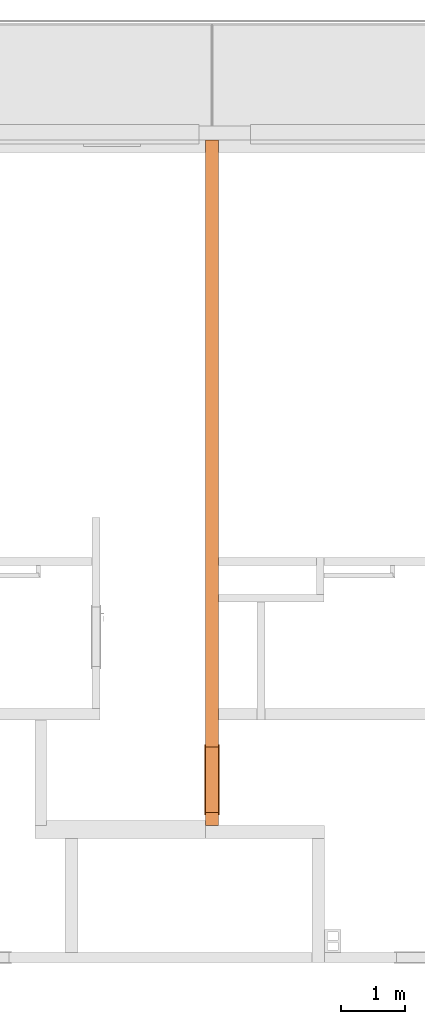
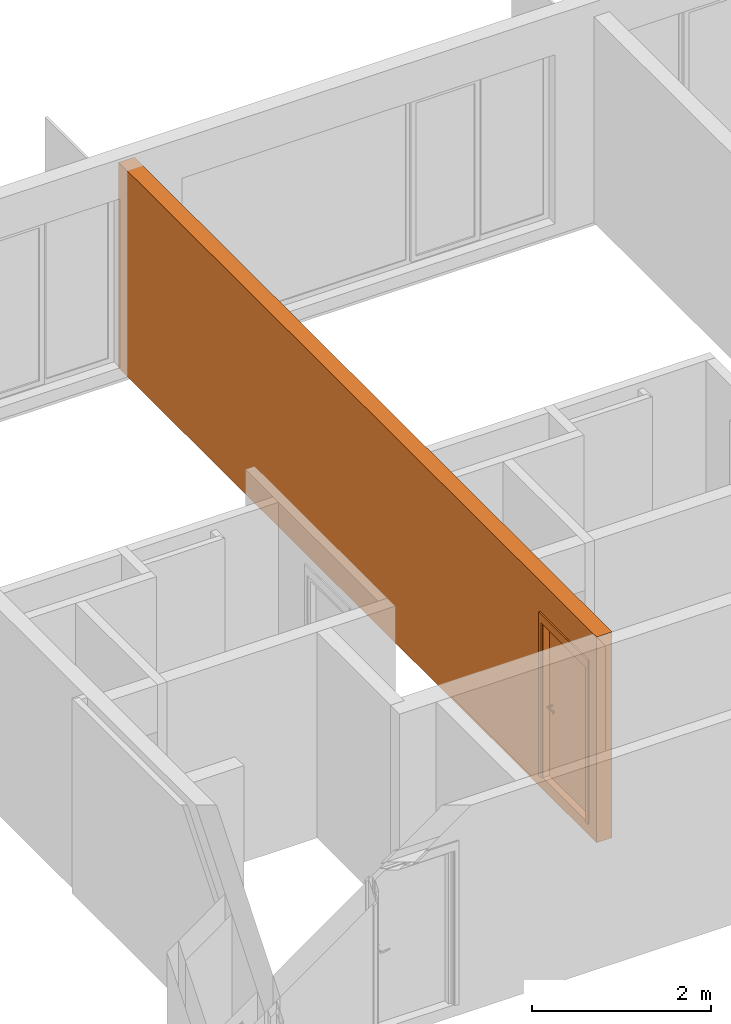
# One storey, part 25 of 64: 2 proxies, 1 opening.
"""IFC2X3 building model written with IfcOpenShell, lengths in millimetres."""

from ifc_helpers import new_model, entity, si_unit, converted_unit, derived_unit, money_unit, direction, frame, origin_with_axes, origin_2d_with_axis, place, context, subcontext, project, spatial, rectangle, extrude, open_shell, faceted_brep, surface_model, source, transform, mapped, material, type_object, element, fill, save


model = new_model("IFC2X3")

# Units and contexts
model_context = context("Model", 3, precision=0.01, world=origin_with_axes(), true_north=direction((0.34421633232, 0.938890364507)))
body_context = subcontext(model_context, "Body", "Model", "MODEL_VIEW")
ifc_project = project(units=[si_unit("LENGTHUNIT", "METRE", prefix="MILLI"), si_unit("AREAUNIT", "SQUARE_METRE"), si_unit("VOLUMEUNIT", "CUBIC_METRE"), converted_unit("PLANEANGLEUNIT", "DEGREE", entity("IfcPlaneAngleMeasure", 0.0174532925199), si_unit("PLANEANGLEUNIT", "RADIAN"), dimensions=[0, 0, 0, 0, 0, 0, 0]), si_unit("SOLIDANGLEUNIT", "STERADIAN"), money_unit("USD"), converted_unit("TIMEUNIT", "Year", entity("IfcTimeMeasure", 31556926.0), si_unit("TIMEUNIT", "SECOND"), dimensions=[0, 0, 1, 0, 0, 0, 0]), si_unit("MASSUNIT", "GRAM", prefix="KILO"), si_unit("THERMODYNAMICTEMPERATUREUNIT", "DEGREE_CELSIUS"), si_unit("LUMINOUSINTENSITYUNIT", "LUMEN"), si_unit("ENERGYUNIT", "JOULE", prefix="MEGA"), derived_unit("THERMALCONDUCTANCEUNIT", [(si_unit("POWERUNIT", "WATT"), 1), (si_unit("LENGTHUNIT", "METRE"), -1), (si_unit("THERMODYNAMICTEMPERATUREUNIT", "KELVIN"), -1)]), derived_unit("SPECIFICHEATCAPACITYUNIT", [(si_unit("ENERGYUNIT", "JOULE"), 1), (si_unit("MASSUNIT", "GRAM", prefix="KILO"), -1), (si_unit("THERMODYNAMICTEMPERATUREUNIT", "KELVIN"), -1)]), derived_unit("MASSDENSITYUNIT", [(si_unit("MASSUNIT", "GRAM", prefix="KILO"), 1), (si_unit("VOLUMEUNIT", "CUBIC_METRE"), -1)])], contexts=[model_context])

# Site, building, storey
site_placement = place(None, origin_with_axes())
site = spatial("IfcSite", under=ifc_project, at=site_placement, Name="USTRONIE MORSKIE", CompositionType="ELEMENT")
building_placement = place(site_placement, origin_with_axes())
building = spatial("IfcBuilding", under=site, at=building_placement, Name="Budynek", CompositionType="ELEMENT")
storey_placement = place(building_placement, frame((0.0, 0.0, 7000.0), z_axis=(0.0, 0.0, 1.0), x_axis=(1.0, 0.0, 0.0)))
storey = spatial("IfcBuildingStorey", under=building, at=storey_placement, Name="PIĘTRO 2", CompositionType="ELEMENT", Elevation=7000.0)

# Proxies, opening
ifc_material = material(Name="Beton konstrukcyjny B25")
building_element_proxy_type_1 = type_object("IfcBuildingElementProxyType", Name="Beton konstrukcyjny B25 200", PredefinedType="NOTDEFINED")
proxy_1_placement = place(storey_placement, frame((384817.920919, 749451.199036, -160.0), z_axis=(0.0, 0.0, 1.0), x_axis=(0.0, -1.0, 0.0)))
proxy_1 = element("IfcBuildingElementProxy", 1, at=proxy_1_placement, inside=storey, type_object=building_element_proxy_type_1, material=ifc_material, Name="SW-01", context=body_context, shape_type="Brep", body=[
    faceted_brep([(10550.0, 100.0, 0.0), (10550.0, -100.0, 0.0), (-100.0, -100.0, 0.0), (-100.0, 100.0, 0.0), (10550.0, 100.0, 2800.0), (10550.0, -100.0, 2800.0), (-100.0, -100.0, 2800.0), (-100.0, 100.0, 2800.0)], [[[0, 1, 2, 3]], [[1, 0, 4, 5]], [[1, 5, 6, 2]], [[7, 3, 2, 6]], [[4, 0, 3, 7]], [[5, 4, 7, 6]]]),
])
opening_placement = place(proxy_1_placement, frame((9840.0, 0.0, 160.0), z_axis=(0.0, 0.0, 1.0), x_axis=(1.0, 0.0, 0.0)))
opening = element("IfcOpeningElement", 2, at=opening_placement, cuts=proxy_1, Name="Dw.1", context=body_context, shape_type="SweptSolid", body=[
    extrude(rectangle(XDim=1020.0, YDim=2120.0, at=origin_2d_with_axis()), frame((0.0, -200.0, 1060.0), z_axis=(0.0, -1.0, 0.0), x_axis=(1.0, 0.0, 0.0)), (0.0, 0.0, -1.0), 600.0),
    extrude(rectangle(XDim=1094.0, YDim=2227.0, at=origin_2d_with_axis()), frame((0.0, -100.0, 1113.5), z_axis=(0.0, -1.0, 0.0), x_axis=(1.0, 0.0, 0.0)), (0.0, 0.0, 1.0), 200.0),
    extrude(rectangle(XDim=1094.0, YDim=2227.0, at=origin_2d_with_axis()), frame((0.0, 100.0, 1113.5), z_axis=(0.0, 1.0, 0.0), x_axis=(1.0, 0.0, 0.0)), (0.0, 0.0, 1.0), 200.0),
])
building_element_proxy_type_2 = type_object("IfcBuildingElementProxyType", Name="Drzwi 23", PredefinedType="NOTDEFINED")
shared_shape = source(origin_with_axes(), body_context, "Body", "SurfaceModel", [
    faceted_brep([(510.0, 0.0, 0.0), (485.0, 0.0, 0.0), (485.0, 85.0, 0.0), (510.0, 85.0, 0.0), (510.0, 0.0, 2120.0), (485.0, 0.0, 2095.0), (485.0, 85.0, 2095.0), (510.0, 85.0, 2120.0)], [[[0, 1, 2, 3]], [[0, 4, 5, 1]], [[1, 5, 6, 2]], [[3, 2, 6, 7]], [[4, 0, 3, 7]], [[5, 4, 7, 6]]]),
    faceted_brep([(-510.0, 0.0, 2120.0), (-485.0, 0.0, 2095.0), (-485.0, 85.0, 2095.0), (-510.0, 85.0, 2120.0), (-510.0, 0.0, 0.0), (-485.0, 0.0, 0.0), (-485.0, 85.0, 0.0), (-510.0, 85.0, 0.0)], [[[0, 1, 2, 3]], [[0, 4, 5, 1]], [[1, 5, 6, 2]], [[3, 2, 6, 7]], [[4, 0, 3, 7]], [[5, 4, 7, 6]]]),
    faceted_brep([(485.0, 0.0, 2095.0), (-485.0, 0.0, 2095.0), (-485.0, 85.0, 2095.0), (485.0, 85.0, 2095.0), (510.0, 0.0, 2120.0), (-510.0, 0.0, 2120.0), (-510.0, 85.0, 2120.0), (510.0, 85.0, 2120.0)], [[[0, 1, 2, 3]], [[0, 4, 5, 1]], [[1, 5, 6, 2]], [[3, 2, 6, 7]], [[4, 0, 3, 7]], [[5, 4, 7, 6]]]),
    faceted_brep([(547.0, 104.0, 0.0), (547.0, 85.0, 0.0), (497.0, 85.0, 0.0), (497.0, 104.0, 0.0), (547.0, 104.0, 2227.0), (547.0, 85.0, 2227.0), (497.0, 85.0, 2107.0), (497.0, 104.0, 2107.0)], [[[0, 1, 2, 3]], [[4, 5, 1, 0]], [[1, 5, 6, 2]], [[3, 2, 6, 7]], [[0, 3, 7, 4]], [[7, 6, 5, 4]]]),
    faceted_brep([(-547.0, 104.0, 2227.0), (-547.0, 85.0, 2227.0), (-497.0, 85.0, 2107.0), (-497.0, 104.0, 2107.0), (-547.0, 104.0, 0.0), (-547.0, 85.0, 0.0), (-497.0, 85.0, 0.0), (-497.0, 104.0, 0.0)], [[[0, 1, 2, 3]], [[4, 5, 1, 0]], [[1, 5, 6, 2]], [[3, 2, 6, 7]], [[0, 3, 7, 4]], [[7, 6, 5, 4]]]),
    faceted_brep([(547.0, 104.0, 2227.0), (547.0, 85.0, 2227.0), (497.0, 85.0, 2107.0), (497.0, 104.0, 2107.0), (-547.0, 104.0, 2227.0), (-547.0, 85.0, 2227.0), (-497.0, 85.0, 2107.0), (-497.0, 104.0, 2107.0)], [[[0, 1, 2, 3]], [[4, 5, 1, 0]], [[1, 5, 6, 2]], [[3, 2, 6, 7]], [[0, 3, 7, 4]], [[7, 6, 5, 4]]]),
    faceted_brep([(547.0, -134.0, 0.0), (497.0, -134.0, 0.0), (497.0, -115.0, 0.0), (547.0, -115.0, 0.0), (547.0, -134.0, 2227.0), (497.0, -134.0, 2107.0), (497.0, -115.0, 2107.0), (547.0, -115.0, 2227.0)], [[[0, 1, 2, 3]], [[0, 4, 5, 1]], [[1, 5, 6, 2]], [[3, 2, 6, 7]], [[4, 0, 3, 7]], [[5, 4, 7, 6]]]),
    faceted_brep([(-547.0, -134.0, 2227.0), (-497.0, -134.0, 2107.0), (-497.0, -115.0, 2107.0), (-547.0, -115.0, 2227.0), (-547.0, -134.0, 0.0), (-497.0, -134.0, 0.0), (-497.0, -115.0, 0.0), (-547.0, -115.0, 0.0)], [[[0, 1, 2, 3]], [[0, 4, 5, 1]], [[1, 5, 6, 2]], [[3, 2, 6, 7]], [[4, 0, 3, 7]], [[5, 4, 7, 6]]]),
    faceted_brep([(547.0, -134.0, 2227.0), (497.0, -134.0, 2107.0), (497.0, -115.0, 2107.0), (547.0, -115.0, 2227.0), (-547.0, -134.0, 2227.0), (-497.0, -134.0, 2107.0), (-497.0, -115.0, 2107.0), (-547.0, -115.0, 2227.0)], [[[0, 1, 2, 3]], [[0, 4, 5, 1]], [[1, 5, 6, 2]], [[3, 2, 6, 7]], [[4, 0, 3, 7]], [[5, 4, 7, 6]]]),
    faceted_brep([(450.0, -40.0, 0.0), (450.0, -115.0, 0.0), (450.0, -115.0, 2050.0), (450.0, -40.0, 2050.0), (462.0, -40.0, 0.0), (462.0, 0.0, 0.0), (510.0, 0.0, 0.0), (510.0, -115.0, 0.0), (510.0, -115.0, 2050.0), (462.0, -40.0, 2050.0), (510.0, 0.0, 2050.0), (462.0, 0.0, 2050.0)], [[[0, 1, 2, 3]], [[4, 5, 6, 7, 1, 0]], [[1, 7, 8, 2]], [[9, 3, 2, 8, 10, 11]], [[9, 4, 0, 3]], [[11, 5, 4, 9]], [[11, 10, 6, 5]], [[6, 10, 8, 7]]]),
    faceted_brep([(-462.0, -40.0, 2050.0), (-462.0, 0.0, 2050.0), (-510.0, 0.0, 2050.0), (-510.0, -115.0, 2050.0), (-450.0, -115.0, 2050.0), (-450.0, -40.0, 2050.0), (-462.0, -40.0, 0.0), (-462.0, 0.0, 0.0), (-510.0, 0.0, 0.0), (-510.0, -115.0, 0.0), (-450.0, -115.0, 0.0), (-450.0, -40.0, 0.0)], [[[0, 1, 2, 3, 4, 5]], [[0, 6, 7, 1]], [[7, 8, 2, 1]], [[2, 8, 9, 3]], [[3, 9, 10, 4]], [[5, 4, 10, 11]], [[5, 11, 6, 0]], [[6, 11, 10, 9, 8, 7]]]),
    faceted_brep([(462.0, 0.0, 2062.0), (-462.0, 0.0, 2062.0), (-462.0, 0.0, 2050.0), (-510.0, 0.0, 2050.0), (-510.0, 0.0, 2120.0), (510.0, 0.0, 2120.0), (510.0, 0.0, 2050.0), (462.0, 0.0, 2050.0), (462.0, -40.0, 2062.0), (-462.0, -40.0, 2062.0), (-462.0, -40.0, 2050.0), (-450.0, -40.0, 2050.0), (-450.0, -115.0, 2050.0), (-510.0, -115.0, 2050.0), (-510.0, -115.0, 2120.0), (510.0, -115.0, 2120.0), (510.0, -115.0, 2050.0), (462.0, -40.0, 2050.0), (450.0, -115.0, 2050.0), (450.0, -40.0, 2050.0)], [[[0, 1, 2, 3, 4, 5, 6, 7]], [[0, 8, 9, 1]], [[1, 9, 10, 2]], [[10, 11, 12, 13, 3, 2]], [[4, 3, 13, 14]], [[5, 4, 14, 15]], [[6, 5, 15, 16]], [[17, 7, 6, 16, 18, 19]], [[7, 17, 8, 0]], [[10, 9, 8, 17, 19, 11]], [[19, 18, 12, 11]], [[12, 18, 16, 15, 14, 13]]]),
    faceted_brep([(440.5, -40.0, 1060.0), (383.5, -40.0, 1060.0), (383.5, -43.0, 1060.0), (440.5, -43.0, 1060.0), (440.5, -40.0, 870.0), (383.5, -40.0, 870.0), (383.5, -43.0, 870.0), (440.5, -43.0, 870.0)], [[[0, 1, 2, 3]], [[0, 4, 5, 1]], [[1, 5, 6, 2]], [[3, 2, 6, 7]], [[4, 0, 3, 7]], [[5, 4, 7, 6]]]),
    faceted_brep([(412.0, -104.0, 990.0), (417.0, -104.0, 991.339745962), (417.0, -111.0, 991.339745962), (412.0, -111.0, 990.0), (387.0, -104.0, 990.0), (387.0, -104.0, 1010.0), (412.0, -104.0, 1010.0), (417.0, -104.0, 1008.66025404), (420.660254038, -104.0, 1005.0), (422.0, -104.0, 1000.0), (420.660254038, -104.0, 995.0), (420.660254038, -111.0, 995.0), (422.0, -111.0, 1000.0), (420.660254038, -111.0, 1005.0), (417.0, -111.0, 1008.66025404), (412.0, -111.0, 1010.0), (387.0, -111.0, 1010.0), (387.0, -111.0, 990.0)], [[[0, 1, 2, 3]], [[0, 4, 5, 6, 7, 8, 9, 10, 1]], [[1, 10, 11, 2]], [[3, 2, 11, 12, 13, 14, 15, 16, 17]], [[4, 0, 3, 17]], [[5, 4, 17, 16]], [[6, 5, 16, 15]], [[7, 6, 15, 14]], [[8, 7, 14, 13]], [[9, 8, 13, 12]], [[10, 9, 12, 11]]]),
    surface_model("IfcShellBasedSurfaceModel", [(387.0, -104.0, 1010.0), (373.901717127, -104.0, 1009.60730092), (373.596090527, -111.0, 1009.60730092), (387.0, -104.0, 990.0), (373.901717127, -104.0, 990.392699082), (346.890283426, -108.663544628, 1008.82190275), (387.0, -111.0, 1010.0), (387.0, -111.0, 990.0), (347.804837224, -101.716818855, 991.178097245), (347.804837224, -101.716818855, 1008.82190275), (346.890283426, -108.663544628, 991.178097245), (373.596090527, -111.0, 990.392699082), (322.006256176, -97.1678329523, 991.963495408), (322.006256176, -97.1678329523, 1008.03650459), (320.489735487, -104.008415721, 1008.03650459), (320.489735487, -104.008415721, 991.963495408), (296.702316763, -90.3876628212, 992.748893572), (296.702316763, -90.3876628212, 1007.25110643), (294.59537082, -97.0700416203, 1007.25110643), (294.59537082, -97.0700416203, 992.748893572), (288.829442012, -87.5221707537, 993.0), (288.829442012, -87.5221707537, 1007.0), (286.538795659, -94.1376880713, 1007.0), (286.538795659, -94.1376880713, 993.0)], [open_shell([[[0, 1, 2]], [[0, 3, 4, 1]], [[1, 5, 2]], [[0, 2, 6]], [[4, 3, 7]], [[1, 4, 8, 9]], [[1, 9, 5]], [[2, 5, 10, 11]], [[6, 2, 11, 7]], [[4, 7, 11]], [[8, 4, 11]], [[9, 8, 12, 13]], [[9, 14, 5]], [[5, 14, 15, 10]], [[8, 11, 10]], [[12, 8, 10]], [[13, 12, 16, 17]], [[9, 13, 14]], [[14, 18, 19, 15]], [[12, 10, 15]], [[16, 12, 15]], [[17, 16, 20, 21]], [[13, 17, 18]], [[13, 18, 14]], [[18, 22, 23, 19]], [[16, 15, 19]], [[20, 16, 19]], [[21, 20, 23, 22]], [[17, 21, 22]], [[17, 22, 18]], [[20, 19, 23]]])]),
    faceted_brep([(401.607695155, -53.0, 994.0), (400.0, -53.0, 1000.0), (399.0, -43.0, 1000.0), (400.741669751, -43.0, 993.5), (406.0, -53.0, 989.607695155), (412.0, -53.0, 988.0), (418.0, -53.0, 989.607695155), (422.392304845, -53.0, 994.0), (424.0, -53.0, 1000.0), (422.392304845, -53.0, 1006.0), (418.0, -53.0, 1010.39230485), (412.0, -53.0, 1012.0), (406.0, -53.0, 1010.39230485), (401.607695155, -53.0, 1006.0), (400.741669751, -43.0, 1006.5), (405.5, -43.0, 1011.25833025), (412.0, -43.0, 1013.0), (418.5, -43.0, 1011.25833025), (423.258330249, -43.0, 1006.5), (425.0, -43.0, 1000.0), (423.258330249, -43.0, 993.5), (418.5, -43.0, 988.741669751), (412.0, -43.0, 987.0), (405.5, -43.0, 988.741669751)], [[[0, 1, 2, 3]], [[1, 0, 4, 5, 6, 7, 8, 9, 10, 11, 12, 13]], [[1, 13, 14, 2]], [[2, 14, 15, 16, 17, 18, 19, 20, 21, 22, 23, 3]], [[4, 0, 3, 23]], [[5, 4, 23, 22]], [[6, 5, 22, 21]], [[7, 6, 21, 20]], [[8, 7, 20, 19]], [[9, 8, 19, 18]], [[10, 9, 18, 17]], [[11, 10, 17, 16]], [[12, 11, 16, 15]], [[13, 12, 15, 14]]]),
    faceted_brep([(394.679491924, -47.0, 895.0), (392.0, -47.0, 905.0), (390.0, -43.0, 905.0), (392.947441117, -43.0, 894.0), (402.0, -47.0, 887.679491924), (412.0, -47.0, 885.0), (422.0, -47.0, 887.679491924), (429.320508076, -47.0, 895.0), (432.0, -47.0, 905.0), (429.320508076, -47.0, 915.0), (422.0, -47.0, 922.320508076), (412.0, -47.0, 925.0), (402.0, -47.0, 922.320508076), (394.679491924, -47.0, 915.0), (392.947441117, -43.0, 916.0), (401.0, -43.0, 924.052558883), (412.0, -43.0, 927.0), (423.0, -43.0, 924.052558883), (431.052558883, -43.0, 916.0), (434.0, -43.0, 905.0), (431.052558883, -43.0, 894.0), (423.0, -43.0, 885.947441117), (412.0, -43.0, 883.0), (401.0, -43.0, 885.947441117)], [[[0, 1, 2, 3]], [[1, 0, 4, 5, 6, 7, 8, 9, 10, 11, 12, 13]], [[1, 13, 14, 2]], [[2, 14, 15, 16, 17, 18, 19, 20, 21, 22, 23, 3]], [[4, 0, 3, 23]], [[5, 4, 23, 22]], [[6, 5, 22, 21]], [[7, 6, 21, 20]], [[8, 7, 20, 19]], [[9, 8, 19, 18]], [[10, 9, 18, 17]], [[11, 10, 17, 16]], [[12, 11, 16, 15]], [[13, 12, 15, 14]]]),
    faceted_brep([(407.050252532, -49.0, 909.050252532), (405.0, -49.0, 914.0), (404.0, -47.0, 914.0), (406.343145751, -47.0, 908.343145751), (412.0, -49.0, 907.0), (416.949747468, -49.0, 909.050252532), (419.0, -49.0, 914.0), (416.949747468, -49.0, 918.949747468), (412.0, -49.0, 921.0), (407.050252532, -49.0, 918.949747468), (406.343145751, -47.0, 919.656854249), (412.0, -47.0, 922.0), (417.656854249, -47.0, 919.656854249), (420.0, -47.0, 914.0), (417.656854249, -47.0, 908.343145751), (412.0, -47.0, 906.0)], [[[0, 1, 2, 3]], [[1, 0, 4, 5, 6, 7, 8, 9]], [[1, 9, 10, 2]], [[2, 10, 11, 12, 13, 14, 15, 3]], [[4, 0, 3, 15]], [[5, 4, 15, 14]], [[6, 5, 14, 13]], [[7, 6, 13, 12]], [[8, 7, 12, 11]], [[9, 8, 11, 10]]]),
    faceted_brep([(412.0, -53.0, 1010.0), (407.0, -53.0, 1008.66025404), (407.0, -104.0, 1008.66025404), (412.0, -104.0, 1010.0), (417.0, -53.0, 1008.66025404), (420.660254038, -53.0, 1005.0), (422.0, -53.0, 1000.0), (420.660254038, -53.0, 995.0), (417.0, -53.0, 991.339745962), (412.0, -53.0, 990.0), (407.0, -53.0, 991.339745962), (403.339745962, -53.0, 995.0), (402.0, -53.0, 1000.0), (403.339745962, -53.0, 1005.0), (403.339745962, -104.0, 1005.0), (402.0, -104.0, 1000.0), (403.339745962, -104.0, 995.0), (407.0, -104.0, 991.339745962), (412.0, -104.0, 990.0), (417.0, -104.0, 991.339745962), (420.660254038, -104.0, 995.0), (422.0, -104.0, 1000.0), (420.660254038, -104.0, 1005.0), (417.0, -104.0, 1008.66025404)], [[[0, 1, 2, 3]], [[0, 4, 5, 6, 7, 8, 9, 10, 11, 12, 13, 1]], [[1, 13, 14, 2]], [[3, 2, 14, 15, 16, 17, 18, 19, 20, 21, 22, 23]], [[4, 0, 3, 23]], [[5, 4, 23, 22]], [[6, 5, 22, 21]], [[7, 6, 21, 20]], [[8, 7, 20, 19]], [[9, 8, 19, 18]], [[10, 9, 18, 17]], [[11, 10, 17, 16]], [[12, 11, 16, 15]], [[13, 12, 15, 14]]]),
    faceted_brep([(440.5, 0.0, 1060.0), (440.5, 3.0, 1060.0), (383.5, 3.0, 1060.0), (383.5, 0.0, 1060.0), (440.5, 0.0, 870.0), (440.5, 3.0, 870.0), (383.5, 3.0, 870.0), (383.5, 0.0, 870.0)], [[[0, 1, 2, 3]], [[4, 5, 1, 0]], [[1, 5, 6, 2]], [[3, 2, 6, 7]], [[0, 3, 7, 4]], [[7, 6, 5, 4]]]),
    faceted_brep([(412.0, 64.0, 990.0), (412.0, 71.0, 990.0), (417.0, 71.0, 991.339745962), (417.0, 64.0, 991.339745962), (387.0, 64.0, 990.0), (387.0, 71.0, 990.0), (387.0, 71.0, 1010.0), (412.0, 71.0, 1010.0), (417.0, 71.0, 1008.66025404), (420.660254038, 71.0, 1005.0), (422.0, 71.0, 1000.0), (420.660254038, 71.0, 995.0), (420.660254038, 64.0, 995.0), (422.0, 64.0, 1000.0), (420.660254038, 64.0, 1005.0), (417.0, 64.0, 1008.66025404), (412.0, 64.0, 1010.0), (387.0, 64.0, 1010.0)], [[[0, 1, 2, 3]], [[4, 5, 1, 0]], [[1, 5, 6, 7, 8, 9, 10, 11, 2]], [[3, 2, 11, 12]], [[0, 3, 12, 13, 14, 15, 16, 17, 4]], [[17, 6, 5, 4]], [[16, 7, 6, 17]], [[15, 8, 7, 16]], [[14, 9, 8, 15]], [[13, 10, 9, 14]], [[12, 11, 10, 13]]]),
    surface_model("IfcShellBasedSurfaceModel", [(387.0, 64.0, 1010.0), (373.596090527, 71.0, 1009.60730092), (373.901717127, 64.0, 1009.60730092), (387.0, 71.0, 1010.0), (346.890283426, 68.6635446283, 1008.82190275), (373.901717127, 64.0, 990.392699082), (387.0, 64.0, 990.0), (387.0, 71.0, 990.0), (373.596090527, 71.0, 990.392699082), (346.890283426, 68.6635446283, 991.178097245), (347.804837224, 61.716818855, 1008.82190275), (347.804837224, 61.716818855, 991.178097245), (320.489735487, 64.0084157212, 991.963495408), (320.489735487, 64.0084157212, 1008.03650459), (322.006256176, 57.1678329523, 1008.03650459), (322.006256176, 57.1678329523, 991.963495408), (294.59537082, 57.0700416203, 992.748893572), (294.59537082, 57.0700416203, 1007.25110643), (296.702316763, 50.3876628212, 1007.25110643), (296.702316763, 50.3876628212, 992.748893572), (286.538795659, 54.1376880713, 993.0), (286.538795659, 54.1376880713, 1007.0), (288.829442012, 47.5221707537, 1007.0), (288.829442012, 47.5221707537, 993.0)], [open_shell([[[0, 1, 2]], [[0, 3, 1]], [[2, 1, 4]], [[0, 2, 5, 6]], [[3, 7, 8, 1]], [[1, 8, 9, 4]], [[2, 4, 10]], [[2, 10, 11, 5]], [[5, 7, 6]], [[5, 8, 7]], [[11, 9, 8]], [[4, 9, 12, 13]], [[10, 4, 13]], [[10, 14, 15, 11]], [[11, 8, 5]], [[15, 9, 11]], [[15, 12, 9]], [[13, 12, 16, 17]], [[10, 13, 14]], [[14, 18, 19, 15]], [[19, 12, 15]], [[19, 16, 12]], [[17, 16, 20, 21]], [[14, 13, 17]], [[14, 17, 18]], [[18, 22, 23, 19]], [[23, 16, 19]], [[23, 20, 16]], [[22, 21, 20, 23]], [[18, 17, 21]], [[18, 21, 22]]])]),
    faceted_brep([(401.607695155, 13.0, 994.0), (400.741669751, 3.0, 993.5), (399.0, 3.0, 1000.0), (400.0, 13.0, 1000.0), (406.0, 13.0, 989.607695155), (405.5, 3.0, 988.741669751), (412.0, 3.0, 987.0), (418.5, 3.0, 988.741669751), (423.258330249, 3.0, 993.5), (425.0, 3.0, 1000.0), (423.258330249, 3.0, 1006.5), (418.5, 3.0, 1011.25833025), (412.0, 3.0, 1013.0), (405.5, 3.0, 1011.25833025), (400.741669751, 3.0, 1006.5), (401.607695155, 13.0, 1006.0), (406.0, 13.0, 1010.39230485), (412.0, 13.0, 1012.0), (418.0, 13.0, 1010.39230485), (422.392304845, 13.0, 1006.0), (424.0, 13.0, 1000.0), (422.392304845, 13.0, 994.0), (418.0, 13.0, 989.607695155), (412.0, 13.0, 988.0)], [[[0, 1, 2, 3]], [[4, 5, 1, 0]], [[2, 1, 5, 6, 7, 8, 9, 10, 11, 12, 13, 14]], [[3, 2, 14, 15]], [[3, 15, 16, 17, 18, 19, 20, 21, 22, 23, 4, 0]], [[23, 6, 5, 4]], [[22, 7, 6, 23]], [[21, 8, 7, 22]], [[20, 9, 8, 21]], [[19, 10, 9, 20]], [[18, 11, 10, 19]], [[17, 12, 11, 18]], [[16, 13, 12, 17]], [[15, 14, 13, 16]]]),
    faceted_brep([(394.679491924, 7.0, 895.0), (392.947441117, 3.0, 894.0), (390.0, 3.0, 905.0), (392.0, 7.0, 905.0), (402.0, 7.0, 887.679491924), (401.0, 3.0, 885.947441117), (412.0, 3.0, 883.0), (423.0, 3.0, 885.947441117), (431.052558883, 3.0, 894.0), (434.0, 3.0, 905.0), (431.052558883, 3.0, 916.0), (423.0, 3.0, 924.052558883), (412.0, 3.0, 927.0), (401.0, 3.0, 924.052558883), (392.947441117, 3.0, 916.0), (394.679491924, 7.0, 915.0), (402.0, 7.0, 922.320508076), (412.0, 7.0, 925.0), (422.0, 7.0, 922.320508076), (429.320508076, 7.0, 915.0), (432.0, 7.0, 905.0), (429.320508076, 7.0, 895.0), (422.0, 7.0, 887.679491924), (412.0, 7.0, 885.0)], [[[0, 1, 2, 3]], [[4, 5, 1, 0]], [[2, 1, 5, 6, 7, 8, 9, 10, 11, 12, 13, 14]], [[3, 2, 14, 15]], [[3, 15, 16, 17, 18, 19, 20, 21, 22, 23, 4, 0]], [[23, 6, 5, 4]], [[22, 7, 6, 23]], [[21, 8, 7, 22]], [[20, 9, 8, 21]], [[19, 10, 9, 20]], [[18, 11, 10, 19]], [[17, 12, 11, 18]], [[16, 13, 12, 17]], [[15, 14, 13, 16]]]),
    faceted_brep([(407.050252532, 9.0, 909.050252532), (406.343145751, 7.0, 908.343145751), (404.0, 7.0, 914.0), (405.0, 9.0, 914.0), (412.0, 9.0, 907.0), (412.0, 7.0, 906.0), (417.656854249, 7.0, 908.343145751), (420.0, 7.0, 914.0), (417.656854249, 7.0, 919.656854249), (412.0, 7.0, 922.0), (406.343145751, 7.0, 919.656854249), (407.050252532, 9.0, 918.949747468), (412.0, 9.0, 921.0), (416.949747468, 9.0, 918.949747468), (419.0, 9.0, 914.0), (416.949747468, 9.0, 909.050252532)], [[[0, 1, 2, 3]], [[4, 5, 1, 0]], [[2, 1, 5, 6, 7, 8, 9, 10]], [[3, 2, 10, 11]], [[3, 11, 12, 13, 14, 15, 4, 0]], [[15, 6, 5, 4]], [[14, 7, 6, 15]], [[13, 8, 7, 14]], [[12, 9, 8, 13]], [[11, 10, 9, 12]]]),
    faceted_brep([(412.0, 13.0, 1010.0), (412.0, 64.0, 1010.0), (407.0, 64.0, 1008.66025404), (407.0, 13.0, 1008.66025404), (417.0, 13.0, 1008.66025404), (417.0, 64.0, 1008.66025404), (420.660254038, 64.0, 1005.0), (422.0, 64.0, 1000.0), (420.660254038, 64.0, 995.0), (417.0, 64.0, 991.339745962), (412.0, 64.0, 990.0), (407.0, 64.0, 991.339745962), (403.339745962, 64.0, 995.0), (402.0, 64.0, 1000.0), (403.339745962, 64.0, 1005.0), (403.339745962, 13.0, 1005.0), (402.0, 13.0, 1000.0), (403.339745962, 13.0, 995.0), (407.0, 13.0, 991.339745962), (412.0, 13.0, 990.0), (417.0, 13.0, 991.339745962), (420.660254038, 13.0, 995.0), (422.0, 13.0, 1000.0), (420.660254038, 13.0, 1005.0)], [[[0, 1, 2, 3]], [[4, 5, 1, 0]], [[1, 5, 6, 7, 8, 9, 10, 11, 12, 13, 14, 2]], [[3, 2, 14, 15]], [[0, 3, 15, 16, 17, 18, 19, 20, 21, 22, 23, 4]], [[23, 6, 5, 4]], [[22, 7, 6, 23]], [[21, 8, 7, 22]], [[20, 9, 8, 21]], [[19, 10, 9, 20]], [[18, 11, 10, 19]], [[17, 12, 11, 18]], [[16, 13, 12, 17]], [[15, 14, 13, 16]]]),
    faceted_brep([(-462.0, 0.0, 0.0), (462.0, 0.0, 0.0), (462.0, -40.0, 0.0), (-462.0, -40.0, 0.0), (-462.0, 0.0, 2062.0), (462.0, 0.0, 2062.0), (462.0, -40.0, 2062.0), (-462.0, -40.0, 2062.0)], [[[0, 1, 2, 3]], [[0, 4, 5, 1]], [[1, 5, 6, 2]], [[3, 2, 6, 7]], [[4, 0, 3, 7]], [[5, 4, 7, 6]]]),
])
proxy_2_placement = place(opening_placement, frame((450.0, 0.0, 0.0), z_axis=(0.0, 0.0, 1.0), x_axis=(-1.0, 0.0, 0.0)))
proxy_2 = element("IfcBuildingElementProxy", 3, at=proxy_2_placement, inside=storey, type_object=building_element_proxy_type_2, Name="Dw.1", context=body_context, shape_type="MappedRepresentation", body=[
    mapped(shared_shape, transform((450.0, 15.0, 0.0))),
])
fill(opening, proxy_2)

save(model, "model.ifc")
